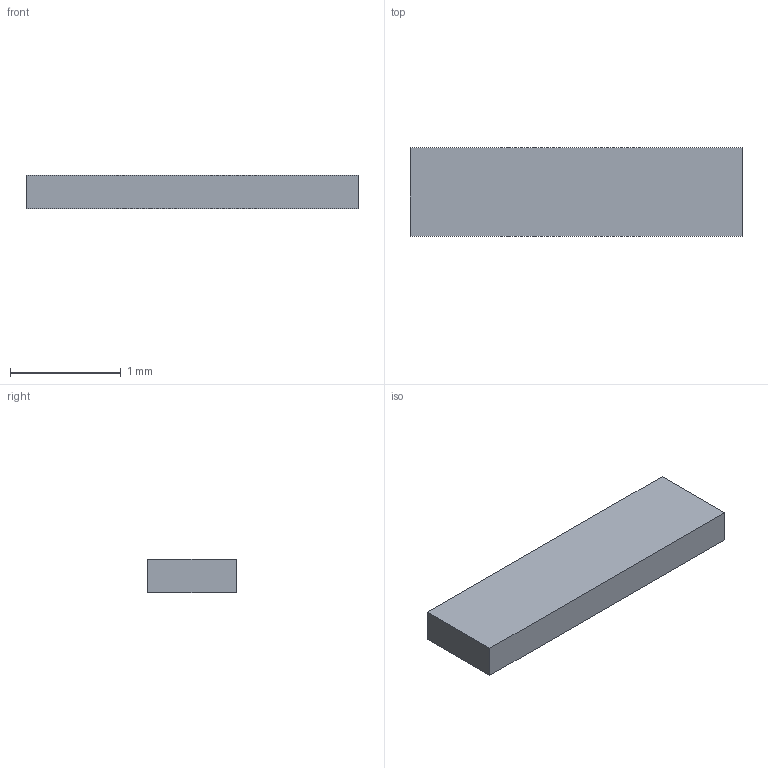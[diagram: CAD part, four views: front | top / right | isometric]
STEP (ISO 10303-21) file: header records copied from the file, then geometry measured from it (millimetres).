
FILE_DESCRIPTION(('Open CASCADE Model'),'2;1');
FILE_NAME('C27_UC1_PCB_Front_Seat_4_FREE_STATE','2026-09-09T20:28:31',( 'Author'),('Open CASCADE'),'Open CASCADE STEP processor 7.9', 'build123d','Unknown');
FILE_SCHEMA(('AUTOMOTIVE_DESIGN { 1 0 10303 214 1 1 1 1 }'));
Length unit declared in the file: millimetre
Products named in the file (1): C27_UC1_PCB_Front_Seat_4_FREE_STATE
Bounding box: 3 x 0.8 x 0.3 mm (x, y, z)
Volume: 0.7 mm3; surface area: 7.1 mm2
Topology: 1 solids, 1 shells, 6 faces, 12 edges, 8 vertices
Faces by surface type: plane 6
Entity records: 322 total; most frequent: CARTESIAN_POINT 51, DIRECTION 50, LINE 36, VECTOR 36, ORIENTED_EDGE 24, PCURVE 24, DEFINITIONAL_REPRESENTATION 24, EDGE_CURVE 12
